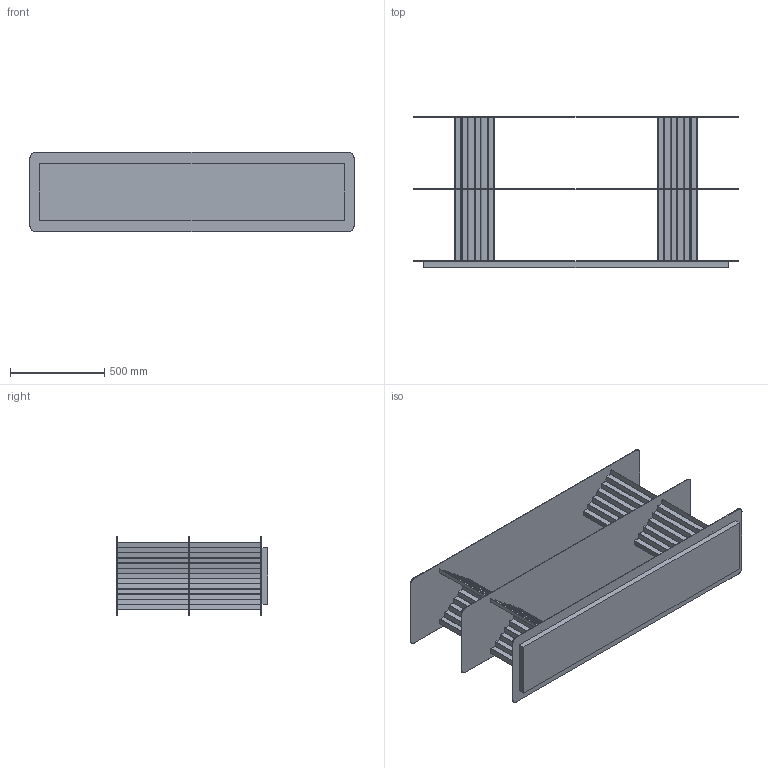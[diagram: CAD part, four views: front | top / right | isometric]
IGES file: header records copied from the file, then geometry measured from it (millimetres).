
Start section: SolidWorks IGES file using analytic representation for surfaces
Global section: file name: Z:\30-Ingenieria I+D\Proyectos\03-Plec_Shelves APO\1-sw\WEB\Arxius\PLEC SHELVES S 2 NIVELES.IGS; native system: SolidWorks 2020; preprocessor: SolidWorks 2020; author: Bernat Llonch; date: 250508.120954; units: millimetre
Bounding box: 1723 x 803 x 420 mm (x, y, z)
Surface area: 7688783.6 mm2 (no closed solid volume)
Topology: 0 solids, 0 shells, 252 faces, 1584 edges, 1584 vertices
Faces by surface type: bspline 240, revolution 12
